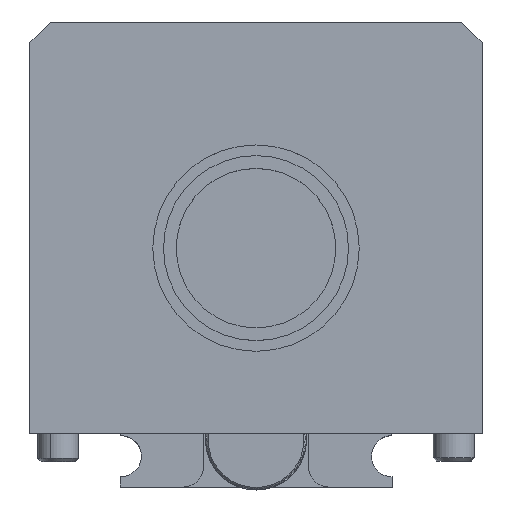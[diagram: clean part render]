
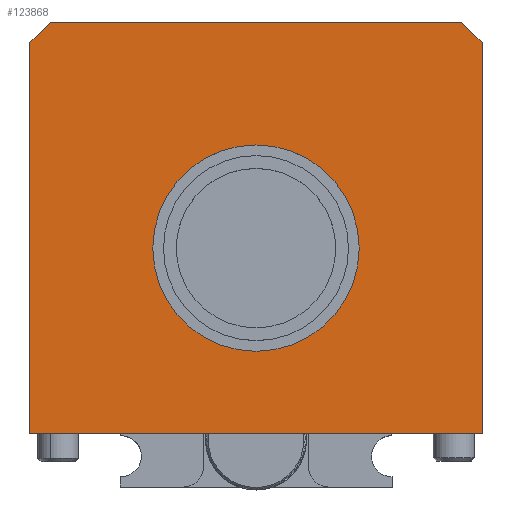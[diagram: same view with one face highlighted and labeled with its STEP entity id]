
A CAD part, top view. The second image highlights one B-rep face of the part: STEP entity #123868.
In plain terms, the highlighted planar face has unit normal (0, 0, 1).
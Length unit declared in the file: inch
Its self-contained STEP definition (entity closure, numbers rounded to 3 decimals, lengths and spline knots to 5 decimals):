
#2035 = CARTESIAN_POINT ( 'NONE',  ( -1.31726, -1.51801, 2.70154 ) ) ;
#2628 = VERTEX_POINT ( 'NONE', #122028 ) ;
#4010 = LINE ( 'NONE', #117779, #21143 ) ;
#4058 = CARTESIAN_POINT ( 'NONE',  ( -1.31726, -1.51801, 2.70154 ) ) ;
#7048 = DIRECTION ( 'NONE',  ( 0., 1., 0. ) ) ;
#7305 = DIRECTION ( 'NONE',  ( 0., -1., 0. ) ) ;
#7481 = CARTESIAN_POINT ( 'NONE',  ( 1.43274, 0.98199, 2.70154 ) ) ;
#7708 = EDGE_CURVE ( 'NONE', #61653, #24780, #20807, .T. ) ;
#9011 = ORIENTED_EDGE ( 'NONE', *, *, #129893, .T. ) ;
#11878 = EDGE_CURVE ( 'NONE', #24780, #2628, #4010, .T. ) ;
#15561 = CIRCLE ( 'NONE', #76943, 0.6275 ) ;
#18403 = ORIENTED_EDGE ( 'NONE', *, *, #100860, .T. ) ;
#20176 = EDGE_CURVE ( 'NONE', #119236, #118010, #79340, .T. ) ;
#20807 = LINE ( 'NONE', #88907, #117921 ) ;
#21143 = VECTOR ( 'NONE', #46214, 39.37008 ) ;
#22074 = VECTOR ( 'NONE', #120355, 39.37008 ) ;
#23427 = CARTESIAN_POINT ( 'NONE',  ( 0.05774, -0.39301, 2.70154 ) ) ;
#24780 = VERTEX_POINT ( 'NONE', #100223 ) ;
#26447 = EDGE_LOOP ( 'NONE', ( #90443, #71241 ) ) ;
#34112 = ORIENTED_EDGE ( 'NONE', *, *, #11878, .T. ) ;
#43078 = DIRECTION ( 'NONE',  ( 0., 0., 1. ) ) ;
#43477 = CIRCLE ( 'NONE', #61958, 0.6275 ) ;
#44289 = CARTESIAN_POINT ( 'NONE',  ( 1.30774, 0.98199, 2.70154 ) ) ;
#45765 = FACE_OUTER_BOUND ( 'NONE', #121740, .T. ) ;
#46214 = DIRECTION ( 'NONE',  ( -0.707, -0.707, 0. ) ) ;
#48417 = VERTEX_POINT ( 'NONE', #53673 ) ;
#53673 = CARTESIAN_POINT ( 'NONE',  ( 0.68524, -0.39301, 2.70154 ) ) ;
#56047 = VERTEX_POINT ( 'NONE', #81739 ) ;
#57455 = ORIENTED_EDGE ( 'NONE', *, *, #7708, .T. ) ;
#61653 = VERTEX_POINT ( 'NONE', #44289 ) ;
#61945 = DIRECTION ( 'NONE',  ( 0., 0., 1. ) ) ;
#61958 = AXIS2_PLACEMENT_3D ( 'NONE', #23427, #43078, #123245 ) ;
#70818 = LINE ( 'NONE', #87687, #77099 ) ;
#71241 = ORIENTED_EDGE ( 'NONE', *, *, #103089, .F. ) ;
#71375 = LINE ( 'NONE', #126213, #85354 ) ;
#71590 = DIRECTION ( 'NONE',  ( 1., 0., 0. ) ) ;
#76374 = CARTESIAN_POINT ( 'NONE',  ( 0.05774, -0.39301, 2.70154 ) ) ;
#76943 = AXIS2_PLACEMENT_3D ( 'NONE', #76374, #106551, #95194 ) ;
#77099 = VECTOR ( 'NONE', #7305, 39.37008 ) ;
#77214 = EDGE_CURVE ( 'NONE', #48417, #56047, #43477, .T. ) ;
#78917 = DIRECTION ( 'NONE',  ( -1., 0., 0. ) ) ;
#79340 = LINE ( 'NONE', #7481, #102795 ) ;
#81739 = CARTESIAN_POINT ( 'NONE',  ( -0.56976, -0.39301, 2.70154 ) ) ;
#81965 = CARTESIAN_POINT ( 'NONE',  ( 1.43274, 0.85699, 2.70154 ) ) ;
#85354 = VECTOR ( 'NONE', #117032, 39.37008 ) ;
#87687 = CARTESIAN_POINT ( 'NONE',  ( -1.31726, 0.98199, 2.70154 ) ) ;
#88907 = CARTESIAN_POINT ( 'NONE',  ( -1.31726, 0.98199, 2.70154 ) ) ;
#89378 = CARTESIAN_POINT ( 'NONE',  ( 1.43274, -1.51801, 2.70154 ) ) ;
#90443 = ORIENTED_EDGE ( 'NONE', *, *, #77214, .F. ) ;
#94168 = LINE ( 'NONE', #108947, #22074 ) ;
#95194 = DIRECTION ( 'NONE',  ( 1., 0., 0. ) ) ;
#100223 = CARTESIAN_POINT ( 'NONE',  ( -1.19226, 0.98199, 2.70154 ) ) ;
#100860 = EDGE_CURVE ( 'NONE', #2628, #122109, #70818, .T. ) ;
#102795 = VECTOR ( 'NONE', #7048, 39.37008 ) ;
#103089 = EDGE_CURVE ( 'NONE', #56047, #48417, #15561, .T. ) ;
#106551 = DIRECTION ( 'NONE',  ( 0., 0., 1. ) ) ;
#107760 = ORIENTED_EDGE ( 'NONE', *, *, #121879, .T. ) ;
#108947 = CARTESIAN_POINT ( 'NONE',  ( 1.24524, 1.04449, 2.70154 ) ) ;
#110012 = FACE_BOUND ( 'NONE', #26447, .T. ) ;
#111366 = ORIENTED_EDGE ( 'NONE', *, *, #20176, .T. ) ;
#114363 = AXIS2_PLACEMENT_3D ( 'NONE', #2035, #61945, #71590 ) ;
#117032 = DIRECTION ( 'NONE',  ( 1., 0., 0. ) ) ;
#117779 = CARTESIAN_POINT ( 'NONE',  ( -2.50476, -0.33051, 2.70154 ) ) ;
#117921 = VECTOR ( 'NONE', #78917, 39.37008 ) ;
#118010 = VERTEX_POINT ( 'NONE', #81965 ) ;
#119236 = VERTEX_POINT ( 'NONE', #89378 ) ;
#120355 = DIRECTION ( 'NONE',  ( -0.707, 0.707, 0. ) ) ;
#121495 = PLANE ( 'NONE',  #114363 ) ;
#121740 = EDGE_LOOP ( 'NONE', ( #111366, #9011, #57455, #34112, #18403, #107760 ) ) ;
#121879 = EDGE_CURVE ( 'NONE', #122109, #119236, #71375, .T. ) ;
#122028 = CARTESIAN_POINT ( 'NONE',  ( -1.31726, 0.85699, 2.70154 ) ) ;
#122109 = VERTEX_POINT ( 'NONE', #4058 ) ;
#123245 = DIRECTION ( 'NONE',  ( 1., 0., 0. ) ) ;
#123868 = ADVANCED_FACE ( 'NONE', ( #110012, #45765 ), #121495, .T. ) ;
#126213 = CARTESIAN_POINT ( 'NONE',  ( -1.31726, -1.51801, 2.70154 ) ) ;
#129893 = EDGE_CURVE ( 'NONE', #118010, #61653, #94168, .T. ) ;
